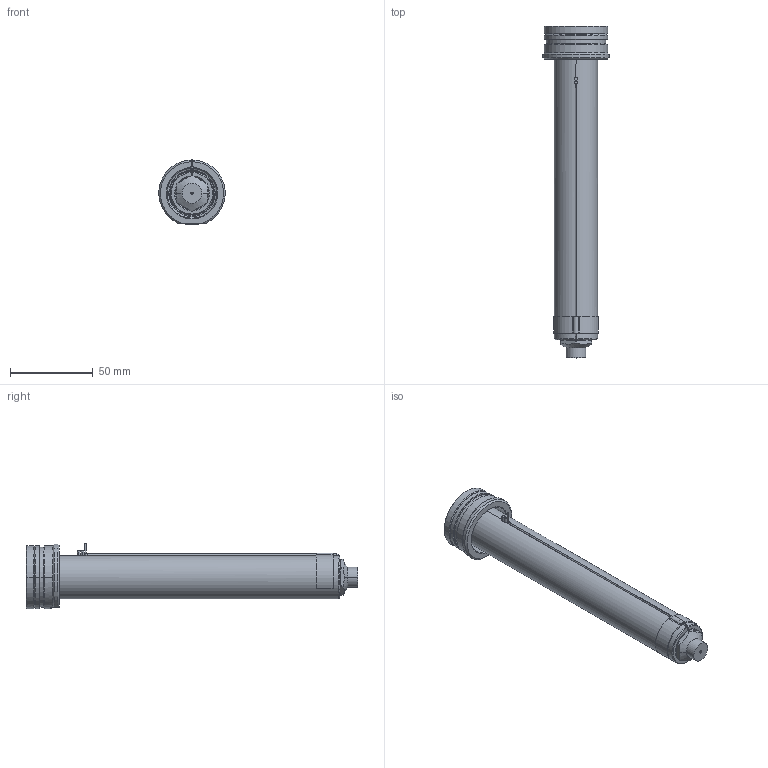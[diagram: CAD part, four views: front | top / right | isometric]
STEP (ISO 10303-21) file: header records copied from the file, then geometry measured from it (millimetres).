
FILE_DESCRIPTION((''),'2;1');
FILE_NAME('EO08_PG-FB_WR_180_SW','2024-02-19T11:31:58',('sundharh'),(''),'CREO PARAMETRIC BY PTC INC, 2023154','CREO PARAMETRIC BY PTC INC, 2023154','');
FILE_SCHEMA(('CONFIG_CONTROL_DESIGN'));
Length unit declared in the file: millimetre
Products named in the file (1): EO08_PG-FB_WR_180_SW
Bounding box: 39.88 x 200 x 39.52 mm (x, y, z)
Volume: 102689.4 mm3; surface area: 28557.7 mm2
Topology: 1 solids, 1 shells, 208 faces, 554 edges, 342 vertices
Faces by surface type: cylinder 81, plane 58, cone 43, torus 19, bspline 4, sphere 3
Entity records: 8092 total; most frequent: CARTESIAN_POINT 2800, DIRECTION 1166, ORIENTED_EDGE 1096, EDGE_CURVE 548, AXIS2_PLACEMENT_3D 487, VERTEX_POINT 342, CIRCLE 283, EDGE_LOOP 226
